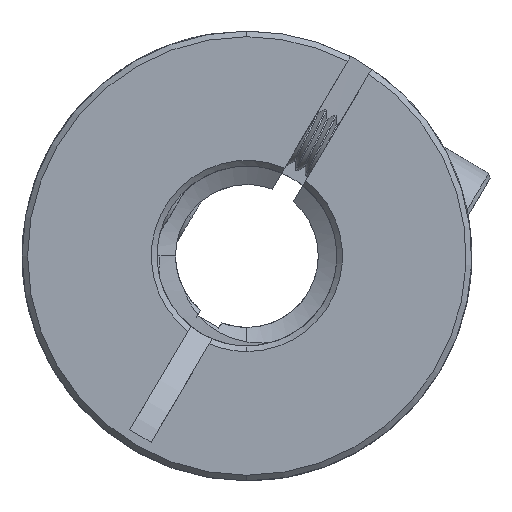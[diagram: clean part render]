
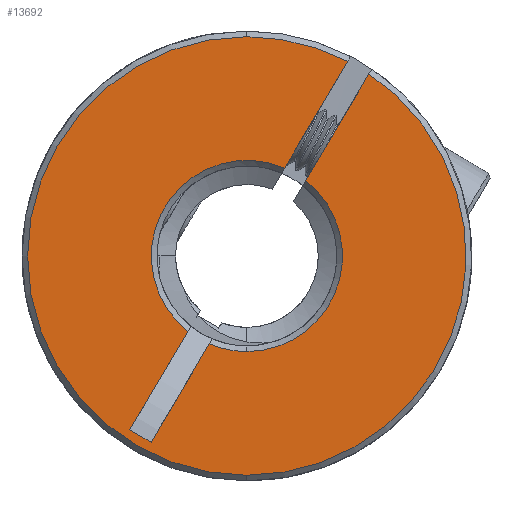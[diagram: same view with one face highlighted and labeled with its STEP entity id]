
A CAD part, front view. The second image highlights one B-rep face of the part: STEP entity #13692.
In plain terms, the highlighted planar face has unit normal (0, -1, 0).
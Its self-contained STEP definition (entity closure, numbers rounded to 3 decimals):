
#1165 = AXIS2_PLACEMENT_3D ( 'NONE', #29386, #22176, #33193 ) ;
#2750 = VERTEX_POINT ( 'NONE', #19903 ) ;
#3012 = CIRCLE ( 'NONE', #31319, 9.75 ) ;
#3181 = VERTEX_POINT ( 'NONE', #33560 ) ;
#3499 = AXIS2_PLACEMENT_3D ( 'NONE', #7606, #48785, #26651 ) ;
#3830 = DIRECTION ( 'NONE',  ( 0., 0., 1. ) ) ;
#3831 = DIRECTION ( 'NONE',  ( 0., 1., 0. ) ) ;
#5410 = CARTESIAN_POINT ( 'NONE',  ( -5.207, -12.5, -7.725 ) ) ;
#5808 = LINE ( 'NONE', #34006, #37620 ) ;
#6185 = ORIENTED_EDGE ( 'NONE', *, *, #17893, .T. ) ;
#7460 = EDGE_CURVE ( 'NONE', #13443, #32734, #3012, .T. ) ;
#7537 = DIRECTION ( 'NONE',  ( 0., 0., 1. ) ) ;
#7606 = CARTESIAN_POINT ( 'NONE',  ( 0., -12.5, 0. ) ) ;
#8131 = CARTESIAN_POINT ( 'NONE',  ( 0., -12.5, -4.25 ) ) ;
#8669 = VERTEX_POINT ( 'NONE', #21329 ) ;
#8722 = ORIENTED_EDGE ( 'NONE', *, *, #37133, .T. ) ;
#8830 = AXIS2_PLACEMENT_3D ( 'NONE', #41495, #30085, #11339 ) ;
#9220 = CARTESIAN_POINT ( 'NONE',  ( -5.207, -12.5, -7.725 ) ) ;
#9710 = VERTEX_POINT ( 'NONE', #8131 ) ;
#11142 = CARTESIAN_POINT ( 'NONE',  ( 4.482, -12.5, 8.659 ) ) ;
#11240 = PLANE ( 'NONE',  #26201 ) ;
#11339 = DIRECTION ( 'NONE',  ( 0., 0., 1. ) ) ;
#11406 = DIRECTION ( 'NONE',  ( 0., 0., 1. ) ) ;
#11441 = DIRECTION ( 'NONE',  ( -0.509, 0., -0.861 ) ) ;
#11734 = LINE ( 'NONE', #5410, #28819 ) ;
#11852 = CARTESIAN_POINT ( 'NONE',  ( 2.619, -12.5, 3.347 ) ) ;
#12466 = EDGE_CURVE ( 'NONE', #33267, #3181, #36485, .T. ) ;
#12883 = EDGE_CURVE ( 'NONE', #48065, #43281, #11734, .T. ) ;
#13443 = VERTEX_POINT ( 'NONE', #11142 ) ;
#13692 = ADVANCED_FACE ( 'NONE', ( #31724 ), #11240, .F. ) ;
#14008 = DIRECTION ( 'NONE',  ( -0.509, 0., -0.861 ) ) ;
#15081 = EDGE_CURVE ( 'NONE', #33267, #48065, #23408, .T. ) ;
#15430 = ORIENTED_EDGE ( 'NONE', *, *, #35076, .T. ) ;
#15765 = VECTOR ( 'NONE', #44555, 1000. ) ;
#16924 = AXIS2_PLACEMENT_3D ( 'NONE', #29185, #45186, #3830 ) ;
#17450 = VERTEX_POINT ( 'NONE', #46546 ) ;
#17893 = EDGE_CURVE ( 'NONE', #32734, #17450, #23360, .T. ) ;
#18013 = ORIENTED_EDGE ( 'NONE', *, *, #15081, .F. ) ;
#18177 = LINE ( 'NONE', #28805, #21709 ) ;
#19574 = ORIENTED_EDGE ( 'NONE', *, *, #12883, .F. ) ;
#19903 = CARTESIAN_POINT ( 'NONE',  ( 5.429, -12.5, 8.099 ) ) ;
#21329 = CARTESIAN_POINT ( 'NONE',  ( -1.672, -12.5, -3.907 ) ) ;
#21709 = VECTOR ( 'NONE', #14008, 1000. ) ;
#21827 = EDGE_CURVE ( 'NONE', #9710, #8669, #27982, .T. ) ;
#21999 = CARTESIAN_POINT ( 'NONE',  ( 0.473, -12.5, -0.28 ) ) ;
#22176 = DIRECTION ( 'NONE',  ( 0., 1., 0. ) ) ;
#22827 = ORIENTED_EDGE ( 'NONE', *, *, #41211, .T. ) ;
#23360 = CIRCLE ( 'NONE', #16924, 9.75 ) ;
#23408 = LINE ( 'NONE', #37755, #15765 ) ;
#25125 = DIRECTION ( 'NONE',  ( -0.509, 0., -0.861 ) ) ;
#26201 = AXIS2_PLACEMENT_3D ( 'NONE', #41893, #3831, #11406 ) ;
#26580 = DIRECTION ( 'NONE',  ( 0., 1., 0. ) ) ;
#26651 = DIRECTION ( 'NONE',  ( 0., 0., 1. ) ) ;
#27923 = DIRECTION ( 'NONE',  ( 0.861, 0., -0.509 ) ) ;
#27982 = CIRCLE ( 'NONE', #47091, 4.25 ) ;
#27992 = CARTESIAN_POINT ( 'NONE',  ( -2.619, -12.5, -3.347 ) ) ;
#28805 = CARTESIAN_POINT ( 'NONE',  ( -0.473, -12.5, 0.28 ) ) ;
#28819 = VECTOR ( 'NONE', #27923, 1000. ) ;
#29185 = CARTESIAN_POINT ( 'NONE',  ( 0., -12.5, 0. ) ) ;
#29386 = CARTESIAN_POINT ( 'NONE',  ( 0., -12.5, 0. ) ) ;
#30085 = DIRECTION ( 'NONE',  ( 0., 1., 0. ) ) ;
#31319 = AXIS2_PLACEMENT_3D ( 'NONE', #46076, #42139, #38330 ) ;
#31724 = FACE_OUTER_BOUND ( 'NONE', #37396, .T. ) ;
#32734 = VERTEX_POINT ( 'NONE', #38248 ) ;
#32903 = VECTOR ( 'NONE', #25125, 1000. ) ;
#33193 = DIRECTION ( 'NONE',  ( 0., 0., 1. ) ) ;
#33267 = VERTEX_POINT ( 'NONE', #27992 ) ;
#33560 = CARTESIAN_POINT ( 'NONE',  ( 1.672, -12.5, 3.907 ) ) ;
#34006 = CARTESIAN_POINT ( 'NONE',  ( 0.473, -12.5, -0.28 ) ) ;
#34717 = EDGE_CURVE ( 'NONE', #13443, #3181, #18177, .T. ) ;
#35076 = EDGE_CURVE ( 'NONE', #8669, #43281, #40557, .T. ) ;
#35438 = EDGE_CURVE ( 'NONE', #2750, #46917, #5808, .T. ) ;
#36485 = CIRCLE ( 'NONE', #8830, 4.25 ) ;
#36959 = CIRCLE ( 'NONE', #3499, 9.75 ) ;
#37133 = EDGE_CURVE ( 'NONE', #17450, #2750, #36959, .T. ) ;
#37162 = CARTESIAN_POINT ( 'NONE',  ( -4.261, -12.5, -8.285 ) ) ;
#37396 = EDGE_LOOP ( 'NONE', ( #18013, #41754, #42192, #43938, #6185, #8722, #40456, #22827, #40502, #15430, #19574 ) ) ;
#37620 = VECTOR ( 'NONE', #11441, 1000. ) ;
#37755 = CARTESIAN_POINT ( 'NONE',  ( -0.473, -12.5, 0.28 ) ) ;
#38248 = CARTESIAN_POINT ( 'NONE',  ( 0., -12.5, 9.75 ) ) ;
#38330 = DIRECTION ( 'NONE',  ( 0., 0., 1. ) ) ;
#40456 = ORIENTED_EDGE ( 'NONE', *, *, #35438, .T. ) ;
#40502 = ORIENTED_EDGE ( 'NONE', *, *, #21827, .T. ) ;
#40557 = LINE ( 'NONE', #21999, #32903 ) ;
#41047 = CIRCLE ( 'NONE', #1165, 4.25 ) ;
#41211 = EDGE_CURVE ( 'NONE', #46917, #9710, #41047, .T. ) ;
#41447 = CARTESIAN_POINT ( 'NONE',  ( 0., -12.5, 0. ) ) ;
#41495 = CARTESIAN_POINT ( 'NONE',  ( 0., -12.5, 0. ) ) ;
#41754 = ORIENTED_EDGE ( 'NONE', *, *, #12466, .T. ) ;
#41893 = CARTESIAN_POINT ( 'NONE',  ( 0., -12.5, 0. ) ) ;
#42139 = DIRECTION ( 'NONE',  ( 0., -1., 0. ) ) ;
#42192 = ORIENTED_EDGE ( 'NONE', *, *, #34717, .F. ) ;
#43281 = VERTEX_POINT ( 'NONE', #37162 ) ;
#43938 = ORIENTED_EDGE ( 'NONE', *, *, #7460, .T. ) ;
#44555 = DIRECTION ( 'NONE',  ( -0.509, 0., -0.861 ) ) ;
#45186 = DIRECTION ( 'NONE',  ( 0., -1., 0. ) ) ;
#46076 = CARTESIAN_POINT ( 'NONE',  ( 0., -12.5, 0. ) ) ;
#46546 = CARTESIAN_POINT ( 'NONE',  ( 0., -12.5, -9.75 ) ) ;
#46917 = VERTEX_POINT ( 'NONE', #11852 ) ;
#47091 = AXIS2_PLACEMENT_3D ( 'NONE', #41447, #26580, #7537 ) ;
#48065 = VERTEX_POINT ( 'NONE', #9220 ) ;
#48785 = DIRECTION ( 'NONE',  ( 0., -1., 0. ) ) ;
